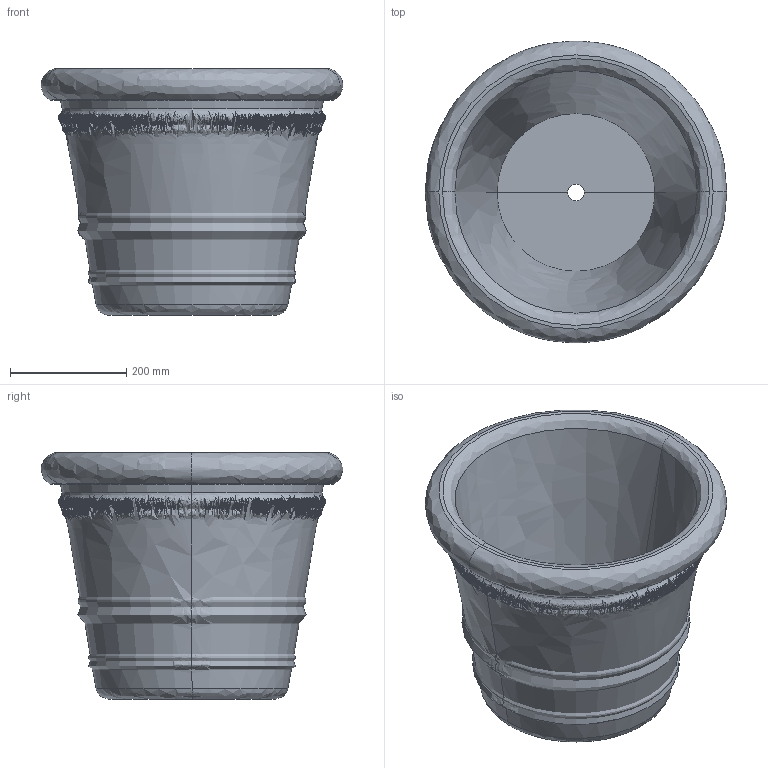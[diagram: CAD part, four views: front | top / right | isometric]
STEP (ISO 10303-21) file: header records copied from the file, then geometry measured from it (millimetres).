
FILE_DESCRIPTION(/* description */ (''),/* implementation_level */ '2;1');
FILE_NAME(/* name */ '50',/* time_stamp */ '2026-07-16T10:56:39+02:00',/* author */ (''),/* organization */ (''),/* preprocessor_version */ 'ST-DEVELOPER v19.2',/* originating_system */ 'Rhino 8.33',/* authorisation */ '');
FILE_SCHEMA (('CONFIG_CONTROL_DESIGN'));
Length unit declared in the file: millimetre
Products named in the file (1): Document
Bounding box: 519.55 x 519.7 x 424.2 mm (x, y, z)
Volume: 17052815.9 mm3; surface area: 1282678.4 mm2
Topology: 1 solids, 1 shells, 22 faces, 44 edges, 24 vertices
Faces by surface type: bspline 16, plane 4, cylinder 2
Entity records: 1632 total; most frequent: CARTESIAN_POINT 1142, ORIENTED_EDGE 88, DIRECTION 70, EDGE_CURVE 44, AXIS2_PLACEMENT_3D 38, TRIMMED_CURVE 30, CIRCLE 30, EDGE_LOOP 24
